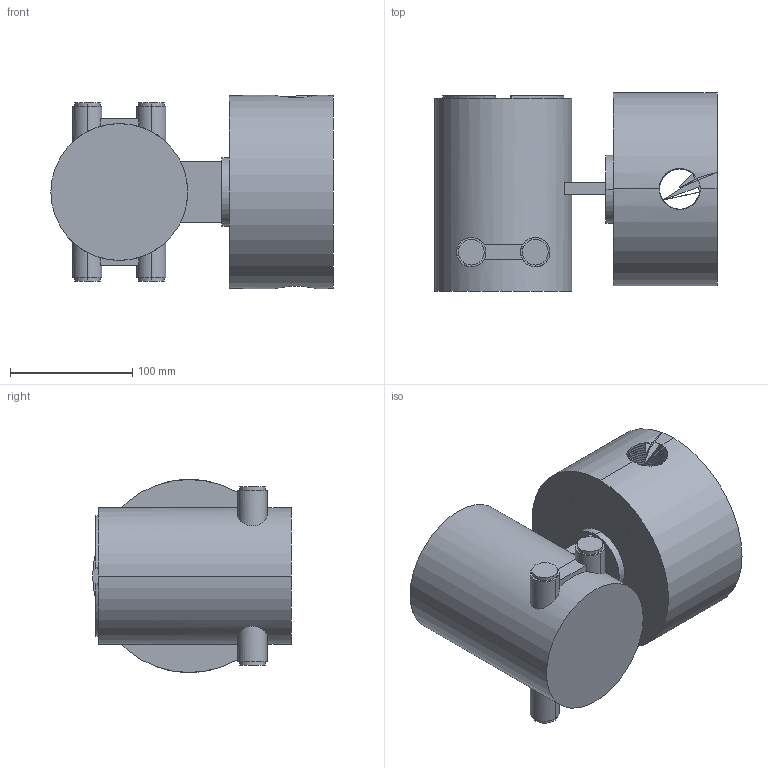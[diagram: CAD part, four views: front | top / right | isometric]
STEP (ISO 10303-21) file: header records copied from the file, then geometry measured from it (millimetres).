
FILE_DESCRIPTION((''),'2;1');
FILE_NAME('ASM0006_ASM','2025-12-30T11:53:16',('28740194'),(''),'CREO PARAMETRIC BY PTC INC, 2024063','CREO PARAMETRIC BY PTC INC, 2024063','');
FILE_SCHEMA(('CONFIG_CONTROL_DESIGN'));
Products named in the file (3): 00; KGF125; ASM0006_ASM
Assembly tree (2 placements, depth 2):
  ASM0006_ASM
    00
    KGF125
Bounding box: 231 x 162.67 x 158 mm (x, y, z)
Volume: 3152986.6 mm3; surface area: 194224.8 mm2
Topology: 2 solids, 12 shells, 614 faces, 1698 edges, 1111 vertices
Faces by surface type: plane 335, cylinder 202, bspline 57, cone 20
Entity records: 45594 total; most frequent: CARTESIAN_POINT 30685, ORIENTED_EDGE 3314, DIRECTION 2611, EDGE_CURVE 1677, VECTOR 1147, LINE 1147, VERTEX_POINT 1110, AXIS2_PLACEMENT_3D 732
